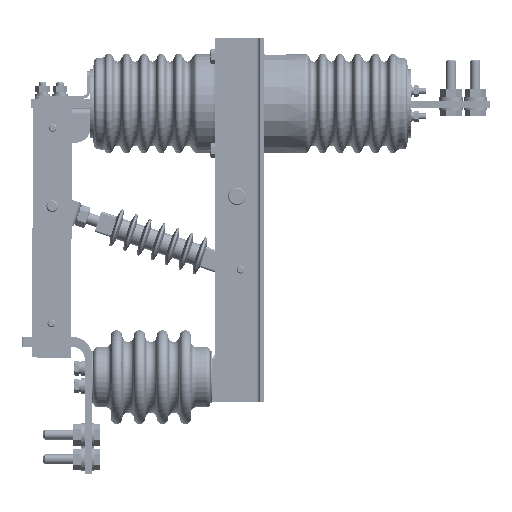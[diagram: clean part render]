
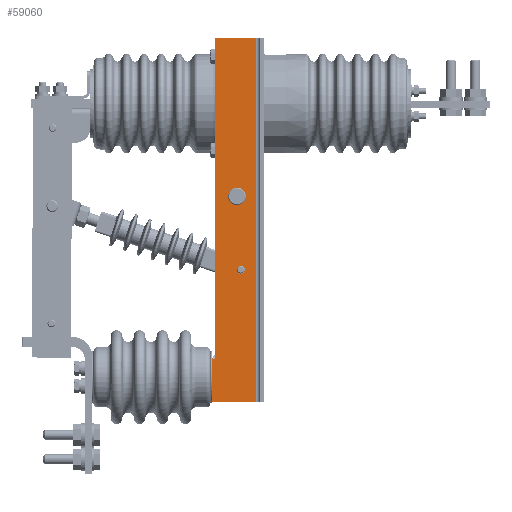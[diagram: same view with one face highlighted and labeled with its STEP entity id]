
A CAD part, left-side view. The second image highlights one B-rep face of the part: STEP entity #59060.
In plain terms, the highlighted planar face has unit normal (-1, 0, 0).
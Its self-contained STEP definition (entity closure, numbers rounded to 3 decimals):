
#566 = CARTESIAN_POINT ( 'NONE',  ( -269.001, 46.998, 85.001 ) ) ;
#633 = CARTESIAN_POINT ( 'NONE',  ( -269.001, 49.998, -122.009 ) ) ;
#1109 = EDGE_CURVE ( 'NONE', #42197, #54820, #108449, .T. ) ;
#2160 = EDGE_CURVE ( 'NONE', #163138, #163138, #61865, .T. ) ;
#2721 = VERTEX_POINT ( 'NONE', #172059 ) ;
#2819 = EDGE_CURVE ( 'NONE', #76913, #41397, #147306, .T. ) ;
#3043 = LINE ( 'NONE', #11173, #65699 ) ;
#4730 = CARTESIAN_POINT ( 'NONE',  ( -269.001, 7.998, 207.001 ) ) ;
#6195 = EDGE_CURVE ( 'NONE', #64354, #21306, #169313, .T. ) ;
#8100 = VERTEX_POINT ( 'NONE', #138241 ) ;
#9946 = LINE ( 'NONE', #26849, #112288 ) ;
#11136 = ORIENTED_EDGE ( 'NONE', *, *, #147111, .F. ) ;
#11173 = CARTESIAN_POINT ( 'NONE',  ( -269.001, 49.998, 84.851 ) ) ;
#12020 = CARTESIAN_POINT ( 'NONE',  ( -269.001, 53.998, -164.999 ) ) ;
#13550 = VECTOR ( 'NONE', #38247, 1000. ) ;
#13981 = DIRECTION ( 'NONE',  ( 0., 0.929, 0.37 ) ) ;
#16220 = CARTESIAN_POINT ( 'NONE',  ( -269.001, 49.998, 195.151 ) ) ;
#16343 = LINE ( 'NONE', #132234, #47715 ) ;
#17227 = VECTOR ( 'NONE', #24267, 1000. ) ;
#18415 = VERTEX_POINT ( 'NONE', #4730 ) ;
#18586 = VERTEX_POINT ( 'NONE', #123539 ) ;
#19452 = FACE_BOUND ( 'NONE', #74339, .T. ) ;
#20730 = EDGE_CURVE ( 'NONE', #169035, #97806, #3043, .T. ) ;
#21306 = VERTEX_POINT ( 'NONE', #30088 ) ;
#24115 = CARTESIAN_POINT ( 'NONE',  ( -269.001, 27.998, 45.001 ) ) ;
#24267 = DIRECTION ( 'NONE',  ( 0., 0., 1. ) ) ;
#26849 = CARTESIAN_POINT ( 'NONE',  ( -269.001, 46.998, 85.001 ) ) ;
#27108 = VECTOR ( 'NONE', #150496, 1000. ) ;
#28217 = AXIS2_PLACEMENT_3D ( 'NONE', #24115, #117598, #37549 ) ;
#29151 = EDGE_CURVE ( 'NONE', #18415, #76913, #16343, .T. ) ;
#29693 = CARTESIAN_POINT ( 'NONE',  ( -269.001, 46.998, 195.151 ) ) ;
#29966 = DIRECTION ( 'NONE',  ( -1., 0., 0. ) ) ;
#30088 = CARTESIAN_POINT ( 'NONE',  ( -269.001, 46.998, 195.001 ) ) ;
#36271 = VECTOR ( 'NONE', #165324, 1000. ) ;
#36598 = CARTESIAN_POINT ( 'NONE',  ( -269.001, 7.998, 207.001 ) ) ;
#37078 = VECTOR ( 'NONE', #13981, 1000. ) ;
#37549 = DIRECTION ( 'NONE',  ( 0., 1., 0. ) ) ;
#38247 = DIRECTION ( 'NONE',  ( 0., 0., -1. ) ) ;
#40464 = ORIENTED_EDGE ( 'NONE', *, *, #6195, .T. ) ;
#41397 = VERTEX_POINT ( 'NONE', #16220 ) ;
#42197 = VERTEX_POINT ( 'NONE', #52181 ) ;
#44784 = CARTESIAN_POINT ( 'NONE',  ( -269.001, 49.998, 85.001 ) ) ;
#47546 = CARTESIAN_POINT ( 'NONE',  ( -269.001, 49.998, 195.001 ) ) ;
#47715 = VECTOR ( 'NONE', #118754, 1000. ) ;
#48030 = VECTOR ( 'NONE', #116604, 1000. ) ;
#49613 = ORIENTED_EDGE ( 'NONE', *, *, #99356, .T. ) ;
#50467 = ORIENTED_EDGE ( 'NONE', *, *, #2160, .T. ) ;
#51461 = DIRECTION ( 'NONE',  ( 0., 0., -1. ) ) ;
#52167 = ORIENTED_EDGE ( 'NONE', *, *, #152736, .T. ) ;
#52181 = CARTESIAN_POINT ( 'NONE',  ( -269.001, 53.998, -164.999 ) ) ;
#54820 = VERTEX_POINT ( 'NONE', #151066 ) ;
#55014 = FACE_OUTER_BOUND ( 'NONE', #145682, .T. ) ;
#58196 = CARTESIAN_POINT ( 'NONE',  ( -269.001, 23.998, -30.099 ) ) ;
#58229 = DIRECTION ( 'NONE',  ( 0., 0., 1. ) ) ;
#59060 = ADVANCED_FACE ( 'NONE', ( #55014, #86332, #19452 ), #149769, .T. ) ;
#61359 = VERTEX_POINT ( 'NONE', #97844 ) ;
#61838 = LINE ( 'NONE', #44784, #164316 ) ;
#61865 = CIRCLE ( 'NONE', #79119, 4.1 ) ;
#64354 = VERTEX_POINT ( 'NONE', #29693 ) ;
#65699 = VECTOR ( 'NONE', #51461, 1000. ) ;
#65749 = CARTESIAN_POINT ( 'NONE',  ( -269.001, 53.36, -120.671 ) ) ;
#67559 = ORIENTED_EDGE ( 'NONE', *, *, #76025, .T. ) ;
#68545 = DIRECTION ( 'NONE',  ( 0., -1., 0. ) ) ;
#68598 = DIRECTION ( 'NONE',  ( -1., 0., 0. ) ) ;
#68911 = ORIENTED_EDGE ( 'NONE', *, *, #155732, .T. ) ;
#71617 = DIRECTION ( 'NONE',  ( 0., 0., 1. ) ) ;
#71780 = CARTESIAN_POINT ( 'NONE',  ( -269.001, 49.998, 84.851 ) ) ;
#72926 = VECTOR ( 'NONE', #68545, 1000. ) ;
#74339 = EDGE_LOOP ( 'NONE', ( #146090 ) ) ;
#76025 = EDGE_CURVE ( 'NONE', #21306, #117019, #87421, .T. ) ;
#76138 = VECTOR ( 'NONE', #108231, 1000. ) ;
#76913 = VERTEX_POINT ( 'NONE', #119310 ) ;
#77967 = ORIENTED_EDGE ( 'NONE', *, *, #29151, .T. ) ;
#79119 = AXIS2_PLACEMENT_3D ( 'NONE', #58196, #151719, #71617 ) ;
#84560 = LINE ( 'NONE', #118263, #13550 ) ;
#85582 = CARTESIAN_POINT ( 'NONE',  ( -269.001, 23.998, -25.999 ) ) ;
#86332 = FACE_BOUND ( 'NONE', #147836, .T. ) ;
#87421 = LINE ( 'NONE', #94475, #154401 ) ;
#87703 = EDGE_CURVE ( 'NONE', #18415, #54820, #87744, .T. ) ;
#87744 = LINE ( 'NONE', #36598, #48030 ) ;
#89677 = AXIS2_PLACEMENT_3D ( 'NONE', #109950, #29966, #123498 ) ;
#94475 = CARTESIAN_POINT ( 'NONE',  ( -269.001, 49.998, 195.001 ) ) ;
#96637 = CARTESIAN_POINT ( 'NONE',  ( -269.001, 46.998, 195.001 ) ) ;
#97806 = VERTEX_POINT ( 'NONE', #121293 ) ;
#97844 = CARTESIAN_POINT ( 'NONE',  ( -269.001, 36.998, 45.001 ) ) ;
#98678 = ORIENTED_EDGE ( 'NONE', *, *, #170260, .T. ) ;
#99356 = EDGE_CURVE ( 'NONE', #8100, #169035, #157550, .T. ) ;
#104417 = VERTEX_POINT ( 'NONE', #65749 ) ;
#107898 = DIRECTION ( 'NONE',  ( 0., 1., 0. ) ) ;
#108121 = LINE ( 'NONE', #633, #37078 ) ;
#108231 = DIRECTION ( 'NONE',  ( 0., 0., -1. ) ) ;
#108284 = CARTESIAN_POINT ( 'NONE',  ( -269.001, 53.998, -164.999 ) ) ;
#108449 = LINE ( 'NONE', #108284, #72926 ) ;
#108915 = CARTESIAN_POINT ( 'NONE',  ( -269.001, 46.998, 195.151 ) ) ;
#109267 = ORIENTED_EDGE ( 'NONE', *, *, #140923, .T. ) ;
#109950 = CARTESIAN_POINT ( 'NONE',  ( -269.001, 49.998, 75.001 ) ) ;
#110033 = DIRECTION ( 'NONE',  ( 0., -1., 0. ) ) ;
#111065 = ORIENTED_EDGE ( 'NONE', *, *, #1109, .T. ) ;
#112288 = VECTOR ( 'NONE', #120358, 1000. ) ;
#114851 = CIRCLE ( 'NONE', #28217, 9. ) ;
#115891 = CIRCLE ( 'NONE', #136732, 9. ) ;
#116604 = DIRECTION ( 'NONE',  ( 0., 0., -1. ) ) ;
#117019 = VERTEX_POINT ( 'NONE', #47546 ) ;
#117598 = DIRECTION ( 'NONE',  ( -1., 0., 0. ) ) ;
#118263 = CARTESIAN_POINT ( 'NONE',  ( -269.001, 46.998, 84.851 ) ) ;
#118754 = DIRECTION ( 'NONE',  ( 0., 1., 0. ) ) ;
#119310 = CARTESIAN_POINT ( 'NONE',  ( -269.001, 49.998, 207.001 ) ) ;
#119733 = LINE ( 'NONE', #12020, #17227 ) ;
#120358 = DIRECTION ( 'NONE',  ( 0., -1., 0. ) ) ;
#121293 = CARTESIAN_POINT ( 'NONE',  ( -269.001, 49.998, -122.009 ) ) ;
#123084 = VERTEX_POINT ( 'NONE', #566 ) ;
#123498 = DIRECTION ( 'NONE',  ( 0., 0., -1. ) ) ;
#123539 = CARTESIAN_POINT ( 'NONE',  ( -269.001, 49.998, 85.001 ) ) ;
#124531 = CARTESIAN_POINT ( 'NONE',  ( -269.001, 49.998, 84.851 ) ) ;
#125717 = EDGE_CURVE ( 'NONE', #42197, #2721, #119733, .T. ) ;
#130717 = ORIENTED_EDGE ( 'NONE', *, *, #20730, .T. ) ;
#132234 = CARTESIAN_POINT ( 'NONE',  ( -269.001, 49.998, 207.001 ) ) ;
#134832 = VECTOR ( 'NONE', #110033, 1000. ) ;
#136732 = AXIS2_PLACEMENT_3D ( 'NONE', #148736, #68598, #162162 ) ;
#138241 = CARTESIAN_POINT ( 'NONE',  ( -269.001, 46.998, 84.851 ) ) ;
#140120 = ORIENTED_EDGE ( 'NONE', *, *, #141016, .T. ) ;
#140318 = EDGE_CURVE ( 'NONE', #61359, #61359, #114851, .T. ) ;
#140923 = EDGE_CURVE ( 'NONE', #18586, #123084, #9946, .T. ) ;
#141016 = EDGE_CURVE ( 'NONE', #97806, #104417, #108121, .T. ) ;
#144575 = ORIENTED_EDGE ( 'NONE', *, *, #87703, .F. ) ;
#145682 = EDGE_LOOP ( 'NONE', ( #67559, #11136, #109267, #52167, #49613, #130717, #140120, #68911, #157008, #111065, #144575, #77967, #150136, #98678, #40464 ) ) ;
#146090 = ORIENTED_EDGE ( 'NONE', *, *, #140318, .F. ) ;
#147111 = EDGE_CURVE ( 'NONE', #18586, #117019, #61838, .T. ) ;
#147306 = LINE ( 'NONE', #148060, #76138 ) ;
#147416 = LINE ( 'NONE', #108915, #134832 ) ;
#147836 = EDGE_LOOP ( 'NONE', ( #50467 ) ) ;
#148060 = CARTESIAN_POINT ( 'NONE',  ( -269.001, 49.998, 207.001 ) ) ;
#148736 = CARTESIAN_POINT ( 'NONE',  ( -269.001, 44.998, -123.999 ) ) ;
#149769 = PLANE ( 'NONE',  #89677 ) ;
#150136 = ORIENTED_EDGE ( 'NONE', *, *, #2819, .T. ) ;
#150496 = DIRECTION ( 'NONE',  ( 0., 0., -1. ) ) ;
#151066 = CARTESIAN_POINT ( 'NONE',  ( -269.001, 7.998, -164.999 ) ) ;
#151719 = DIRECTION ( 'NONE',  ( 1., 0., 0. ) ) ;
#152736 = EDGE_CURVE ( 'NONE', #123084, #8100, #84560, .T. ) ;
#154401 = VECTOR ( 'NONE', #107898, 1000. ) ;
#155732 = EDGE_CURVE ( 'NONE', #104417, #2721, #115891, .T. ) ;
#157008 = ORIENTED_EDGE ( 'NONE', *, *, #125717, .F. ) ;
#157550 = LINE ( 'NONE', #71780, #36271 ) ;
#162162 = DIRECTION ( 'NONE',  ( 0., 0.929, 0.37 ) ) ;
#163138 = VERTEX_POINT ( 'NONE', #85582 ) ;
#164316 = VECTOR ( 'NONE', #58229, 1000. ) ;
#165324 = DIRECTION ( 'NONE',  ( 0., 1., 0. ) ) ;
#169035 = VERTEX_POINT ( 'NONE', #124531 ) ;
#169313 = LINE ( 'NONE', #96637, #27108 ) ;
#170260 = EDGE_CURVE ( 'NONE', #41397, #64354, #147416, .T. ) ;
#172059 = CARTESIAN_POINT ( 'NONE',  ( -269.001, 53.998, -123.999 ) ) ;
